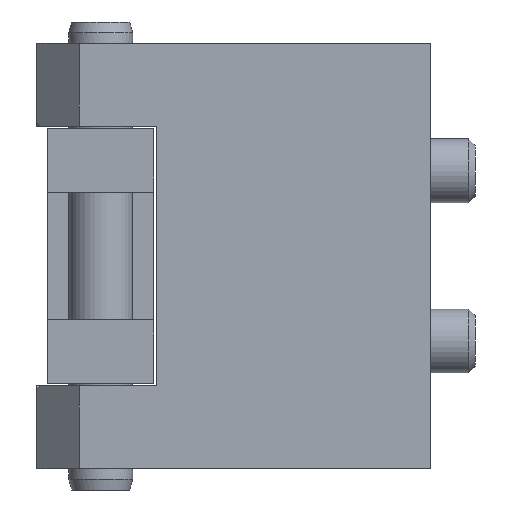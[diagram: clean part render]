
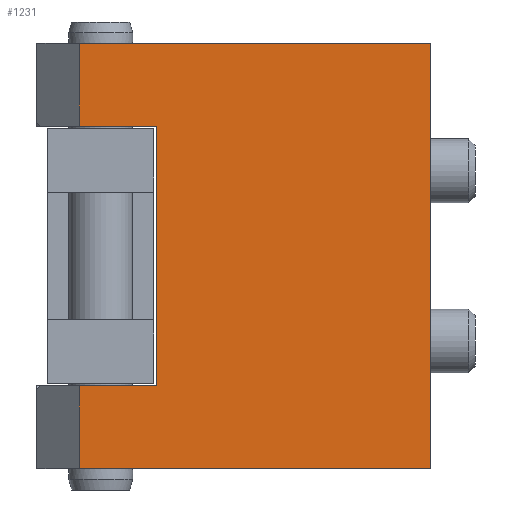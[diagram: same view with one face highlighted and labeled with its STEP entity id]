
A CAD part, left-side view. The second image highlights one B-rep face of the part: STEP entity #1231.
In plain terms, the highlighted planar face has unit normal (-1, 0, 0).
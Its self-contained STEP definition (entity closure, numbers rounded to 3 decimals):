
#84=LINE('',#2017,#174);
#87=LINE('',#2022,#177);
#90=LINE('',#2029,#180);
#103=LINE('',#2059,#193);
#107=LINE('',#2065,#197);
#116=LINE('',#2084,#206);
#117=LINE('',#2086,#207);
#118=LINE('',#2087,#208);
#174=VECTOR('',#1600,3.9);
#177=VECTOR('',#1605,3.6);
#180=VECTOR('',#1610,3.9);
#193=VECTOR('',#1635,3.6);
#197=VECTOR('',#1643,12.2);
#206=VECTOR('',#1662,16.52);
#207=VECTOR('',#1663,20.);
#208=VECTOR('',#1664,16.52);
#291=FACE_OUTER_BOUND('',#446,.T.);
#446=EDGE_LOOP('',(#1008,#1009,#1010,#1011,#1012,#1013,#1014,#1015));
#579=VERTEX_POINT('',#2014);
#580=VERTEX_POINT('',#2016);
#581=VERTEX_POINT('',#2020);
#583=VERTEX_POINT('',#2026);
#584=VERTEX_POINT('',#2028);
#595=VERTEX_POINT('',#2058);
#600=VERTEX_POINT('',#2083);
#601=VERTEX_POINT('',#2085);
#709=EDGE_CURVE('',#579,#580,#84,.T.);
#712=EDGE_CURVE('',#579,#581,#87,.T.);
#715=EDGE_CURVE('',#583,#584,#90,.T.);
#730=EDGE_CURVE('',#595,#584,#103,.T.);
#734=EDGE_CURVE('',#581,#595,#107,.T.);
#743=EDGE_CURVE('',#583,#600,#116,.T.);
#744=EDGE_CURVE('',#600,#601,#117,.T.);
#745=EDGE_CURVE('',#601,#580,#118,.T.);
#1008=ORIENTED_EDGE('',*,*,#712,.T.);
#1009=ORIENTED_EDGE('',*,*,#734,.T.);
#1010=ORIENTED_EDGE('',*,*,#730,.T.);
#1011=ORIENTED_EDGE('',*,*,#715,.F.);
#1012=ORIENTED_EDGE('',*,*,#743,.T.);
#1013=ORIENTED_EDGE('',*,*,#744,.T.);
#1014=ORIENTED_EDGE('',*,*,#745,.T.);
#1015=ORIENTED_EDGE('',*,*,#709,.F.);
#1085=PLANE('',#1347);
#1231=ADVANCED_FACE('',(#291),#1085,.T.);
#1347=AXIS2_PLACEMENT_3D('',#2082,#1660,#1661);
#1600=DIRECTION('',(0.,0.,1.));
#1605=DIRECTION('',(0.,-1.,0.));
#1610=DIRECTION('',(0.,0.,1.));
#1635=DIRECTION('',(0.,1.,0.));
#1643=DIRECTION('',(0.,0.,-1.));
#1660=DIRECTION('center_axis',(-1.,0.,0.));
#1661=DIRECTION('ref_axis',(0.,0.,1.));
#1662=DIRECTION('',(0.,-1.,0.));
#1663=DIRECTION('',(0.,0.,1.));
#1664=DIRECTION('',(0.,1.,0.));
#2014=CARTESIAN_POINT('',(-26.3,59.044,6.1));
#2016=CARTESIAN_POINT('',(-26.3,59.044,10.));
#2017=CARTESIAN_POINT('',(-26.3,59.044,0.));
#2020=CARTESIAN_POINT('',(-26.3,55.444,6.1));
#2022=CARTESIAN_POINT('',(-26.3,48.828,6.1));
#2026=CARTESIAN_POINT('',(-26.3,59.044,-10.));
#2028=CARTESIAN_POINT('',(-26.3,59.044,-6.1));
#2029=CARTESIAN_POINT('',(-26.3,59.044,0.));
#2058=CARTESIAN_POINT('',(-26.3,55.444,-6.1));
#2059=CARTESIAN_POINT('',(-26.3,48.828,-6.1));
#2065=CARTESIAN_POINT('',(-26.3,55.444,0.));
#2082=CARTESIAN_POINT('Origin',(-26.3,42.524,0.));
#2083=CARTESIAN_POINT('',(-26.3,42.524,-10.));
#2084=CARTESIAN_POINT('',(-26.3,59.044,-10.));
#2085=CARTESIAN_POINT('',(-26.3,42.524,10.));
#2086=CARTESIAN_POINT('',(-26.3,42.524,0.));
#2087=CARTESIAN_POINT('',(-26.3,59.044,10.));
